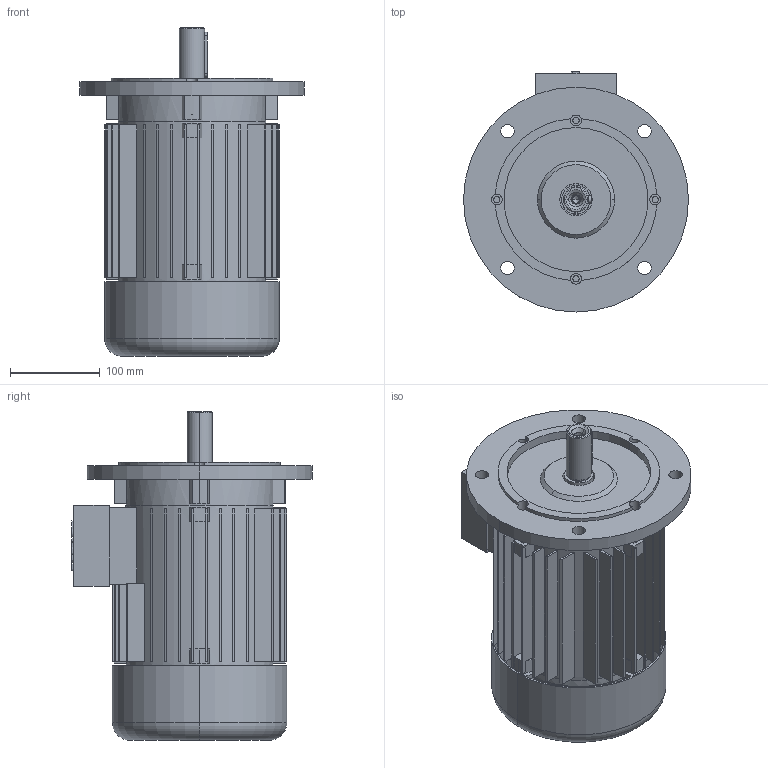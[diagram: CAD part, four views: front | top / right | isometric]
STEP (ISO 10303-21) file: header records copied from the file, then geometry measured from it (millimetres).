
FILE_DESCRIPTION (( 'STEP AP203' ), '1' );
FILE_NAME ('5AZ 100 B5 STANDK.STEP', '2017-11-10T10:39:31', ( '' ), ( '' ), 'SwSTEP 2.0', 'SolidWorks 2017', '' );
FILE_SCHEMA (( 'CONFIG_CONTROL_DESIGN' ));
Length unit declared in the file: millimetre
Products named in the file (1): 5AZ 100 B5 STANDK
Bounding box: 250 x 267 x 365 mm (x, y, z)
Volume: 2766138.4 mm3; surface area: 821626 mm2
Topology: 7 solids, 7 shells, 467 faces, 1203 edges, 795 vertices
Faces by surface type: plane 299, cylinder 137, cone 18, bspline 9, torus 4
Entity records: 14481 total; most frequent: CARTESIAN_POINT 2673, DIRECTION 2507, ORIENTED_EDGE 2402, EDGE_CURVE 1201, AXIS2_PLACEMENT_3D 877, VERTEX_POINT 795, LINE 753, VECTOR 753
